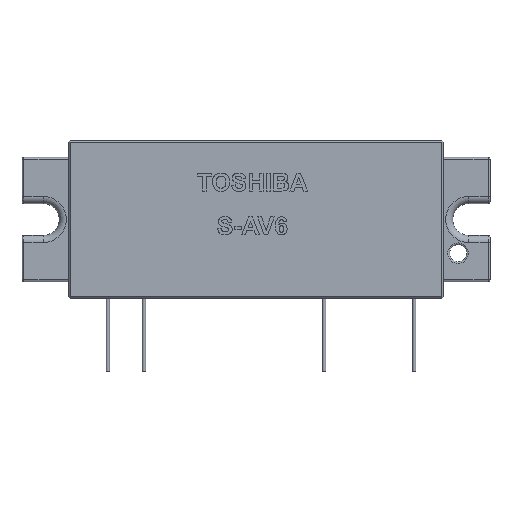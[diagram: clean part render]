
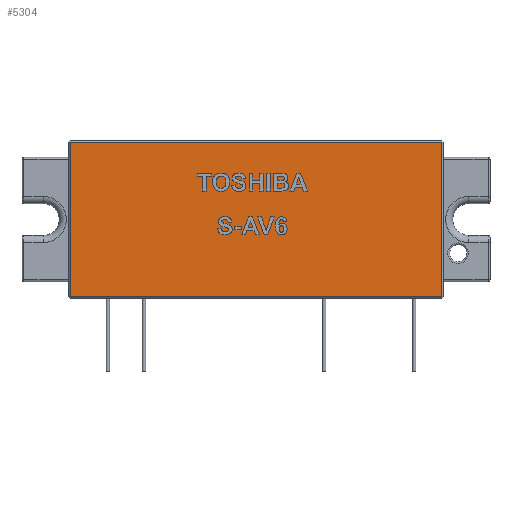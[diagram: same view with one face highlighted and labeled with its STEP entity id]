
A CAD part, top view. The second image highlights one B-rep face of the part: STEP entity #5304.
In plain terms, the highlighted planar face has unit normal (0, 0, 1).
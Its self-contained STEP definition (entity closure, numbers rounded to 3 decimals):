
#317=PLANE('',#5553);
#583=FACE_OUTER_BOUND('',#909,.T.);
#909=EDGE_LOOP('',(#4643,#4644,#4645,#4646));
#1350=LINE('',#10002,#1807);
#1357=LINE('',#10015,#1814);
#1359=LINE('',#10018,#1816);
#1363=LINE('',#10024,#1820);
#1807=VECTOR('',#6290,10.);
#1814=VECTOR('',#6303,10.);
#1816=VECTOR('',#6307,10.);
#1820=VECTOR('',#6315,10.);
#2535=VERTEX_POINT('',#9963);
#2538=VERTEX_POINT('',#9973);
#2544=VERTEX_POINT('',#9993);
#2547=VERTEX_POINT('',#10006);
#3240=EDGE_CURVE('',#2535,#2544,#1350,.T.);
#3247=EDGE_CURVE('',#2544,#2547,#1357,.T.);
#3249=EDGE_CURVE('',#2547,#2538,#1359,.T.);
#3253=EDGE_CURVE('',#2538,#2535,#1363,.T.);
#4643=ORIENTED_EDGE('',*,*,#3240,.F.);
#4644=ORIENTED_EDGE('',*,*,#3253,.F.);
#4645=ORIENTED_EDGE('',*,*,#3249,.F.);
#4646=ORIENTED_EDGE('',*,*,#3247,.F.);
#5304=ADVANCED_FACE('',(#583),#317,.T.);
#5553=AXIS2_PLACEMENT_3D('',#10033,#6329,#6330);
#6290=DIRECTION('',(0.,-1.,0.));
#6303=DIRECTION('',(-1.,0.,0.));
#6307=DIRECTION('',(0.,1.,0.));
#6315=DIRECTION('',(1.,0.,0.));
#6329=DIRECTION('center_axis',(0.,0.,1.));
#6330=DIRECTION('ref_axis',(1.,0.,0.));
#9963=CARTESIAN_POINT('',(59.2,19.65,9.6));
#9973=CARTESIAN_POINT('',(6.8,19.65,9.6));
#9993=CARTESIAN_POINT('',(59.2,-2.15,9.6));
#10002=CARTESIAN_POINT('',(59.2,3.175,9.6));
#10006=CARTESIAN_POINT('',(6.8,-2.15,9.6));
#10015=CARTESIAN_POINT('',(19.775,-2.15,9.6));
#10018=CARTESIAN_POINT('',(6.8,14.325,9.6));
#10024=CARTESIAN_POINT('',(46.225,19.65,9.6));
#10033=CARTESIAN_POINT('Origin',(33.,8.75,9.6));
